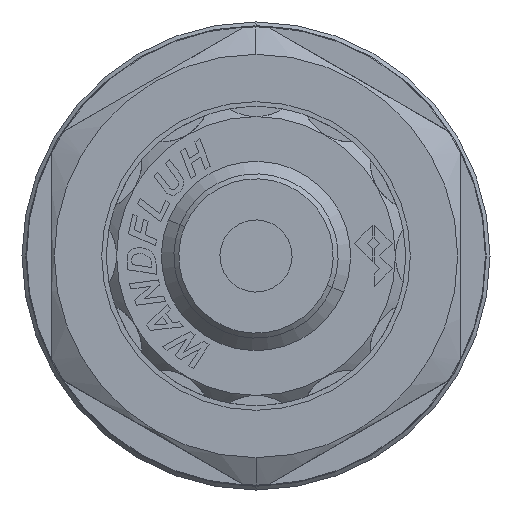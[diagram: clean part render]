
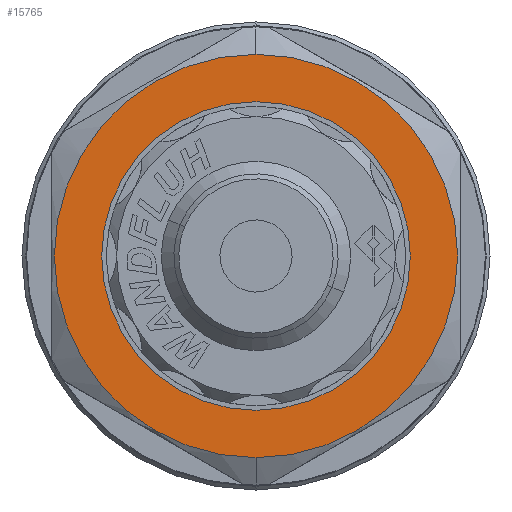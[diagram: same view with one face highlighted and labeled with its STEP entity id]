
A CAD part, left-side view. The second image highlights one B-rep face of the part: STEP entity #15765.
In plain terms, the highlighted planar face has unit normal (-1, 0, 0).
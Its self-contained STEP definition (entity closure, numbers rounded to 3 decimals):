
#898 = DIRECTION ( 'NONE',  ( 0., 0., -1. ) ) ;
#904 = DIRECTION ( 'NONE',  ( 1., 0., 0. ) ) ;
#968 = CARTESIAN_POINT ( 'NONE',  ( 0., 0., 0. ) ) ;
#1105 = DIRECTION ( 'NONE',  ( 0., 0., 1. ) ) ;
#1146 = DIRECTION ( 'NONE',  ( -1., 0., 0. ) ) ;
#1174 = CARTESIAN_POINT ( 'NONE',  ( 0., 0., 0. ) ) ;
#1377 = DIRECTION ( 'NONE',  ( 0., 0., 1. ) ) ;
#1378 = DIRECTION ( 'NONE',  ( -1., 0., 0. ) ) ;
#1379 = CARTESIAN_POINT ( 'NONE',  ( 0., 0., 0. ) ) ;
#2866 = FACE_BOUND ( 'NONE', #3135, .T. ) ;
#2879 = FACE_OUTER_BOUND ( 'NONE', #3255, .T. ) ;
#3135 = EDGE_LOOP ( 'NONE', ( #20771, #20789 ) ) ;
#3255 = EDGE_LOOP ( 'NONE', ( #20774, #20664 ) ) ;
#7065 = AXIS2_PLACEMENT_3D ( 'NONE', #968, #904, #898 ) ;
#7438 = AXIS2_PLACEMENT_3D ( 'NONE', #1174, #1146, #1105 ) ;
#7454 = AXIS2_PLACEMENT_3D ( 'NONE', #8338, #8340, #8342 ) ;
#7606 = EDGE_CURVE ( 'NONE', #21965, #22099, #20149, .T. ) ;
#8283 = EDGE_CURVE ( 'NONE', #22054, #22083, #20096, .T. ) ;
#8338 = CARTESIAN_POINT ( 'NONE',  ( 0., 0., 0. ) ) ;
#8340 = DIRECTION ( 'NONE',  ( 1., 0., 0. ) ) ;
#8342 = DIRECTION ( 'NONE',  ( 0., 0., -1. ) ) ;
#8827 = EDGE_CURVE ( 'NONE', #22099, #21965, #20053, .T. ) ;
#9147 = AXIS2_PLACEMENT_3D ( 'NONE', #1379, #1378, #1377 ) ;
#9780 = PLANE ( 'NONE',  #13366 ) ;
#9787 = CARTESIAN_POINT ( 'NONE',  ( 0., 0., 0. ) ) ;
#9788 = DIRECTION ( 'NONE',  ( 1., 0., 0. ) ) ;
#9789 = DIRECTION ( 'NONE',  ( 0., 0., -1. ) ) ;
#11125 = EDGE_CURVE ( 'NONE', #22083, #22054, #19817, .T. ) ;
#13366 = AXIS2_PLACEMENT_3D ( 'NONE', #9787, #9788, #9789 ) ;
#15765 = ADVANCED_FACE ( 'NONE', ( #2866, #2879 ), #9780, .F. ) ;
#19817 = CIRCLE ( 'NONE', #7454, 12.25 ) ;
#20053 = CIRCLE ( 'NONE', #9147, 20.25 ) ;
#20096 = CIRCLE ( 'NONE', #7065, 12.25 ) ;
#20149 = CIRCLE ( 'NONE', #7438, 20.25 ) ;
#20664 = ORIENTED_EDGE ( 'NONE', *, *, #8827, .T. ) ;
#20771 = ORIENTED_EDGE ( 'NONE', *, *, #8283, .T. ) ;
#20774 = ORIENTED_EDGE ( 'NONE', *, *, #7606, .T. ) ;
#20789 = ORIENTED_EDGE ( 'NONE', *, *, #11125, .T. ) ;
#21965 = VERTEX_POINT ( 'NONE', #23772 ) ;
#22054 = VERTEX_POINT ( 'NONE', #23861 ) ;
#22083 = VERTEX_POINT ( 'NONE', #23890 ) ;
#22099 = VERTEX_POINT ( 'NONE', #23906 ) ;
#23772 = CARTESIAN_POINT ( 'NONE',  ( 0., 0., -20.25 ) ) ;
#23861 = CARTESIAN_POINT ( 'NONE',  ( 0., 0., 12.25 ) ) ;
#23890 = CARTESIAN_POINT ( 'NONE',  ( 0., 0., -12.25 ) ) ;
#23906 = CARTESIAN_POINT ( 'NONE',  ( 0., 0., 20.25 ) ) ;
